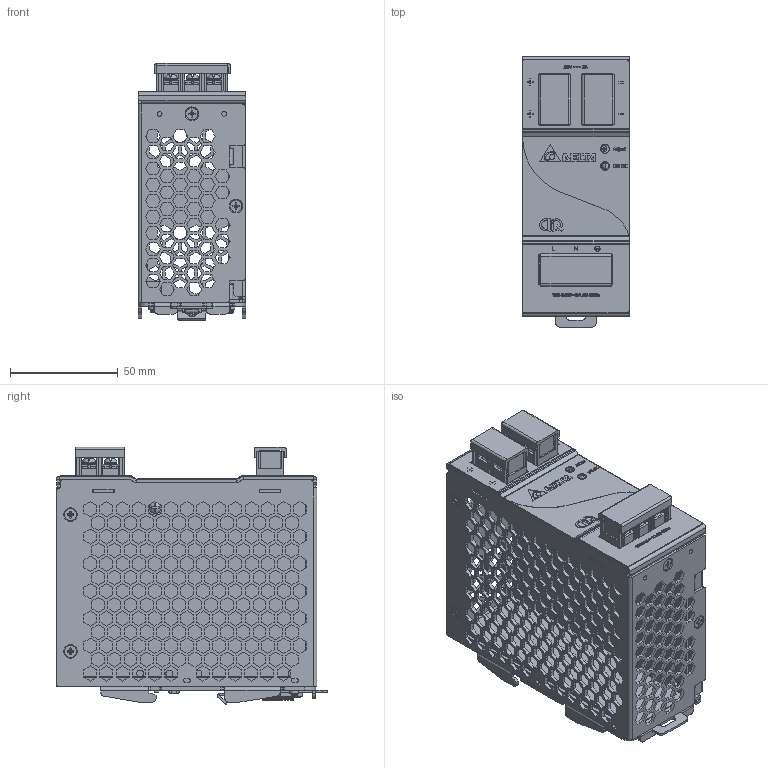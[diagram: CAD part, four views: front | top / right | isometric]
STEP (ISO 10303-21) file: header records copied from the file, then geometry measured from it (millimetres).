
FILE_DESCRIPTION((''),'2;1');
FILE_NAME('DRP024V120W1AA_ASM','2012-04-20T',('Manop.Pr'),(''),'PRO/ENGINEER BY PARAMETRIC TECHNOLOGY CORPORATION, 2010180','PRO/ENGINEER BY PARAMETRIC TECHNOLOGY CORPORATION, 2010180','');
FILE_SCHEMA(('CONFIG_CONTROL_DESIGN','SHAPE_APPEARANCE_LAYERS_GROUPS'));
Products named in the file (34): 330240391112; 330240391112_A_STUD; 330240391112_ASM; 330240380202; 330240360405; 326552550808; 3268190300; 3202315200; 324404500404; 324404500404_A_TAPE; 324404500404_ASM; 3461303000; 3460088100; 3462026200; ASSY_LATCH_50X100_ASM; 2958019105_PWB_MAIN; EE_VR550_0604101305; 2968051202_DCT-512; EE_LED350; 3073049746_A_BODY; 3073049746_A_TERMINAL; 3073049746_A_COVER; 3073049746_A_SCREW; 3073049746_ASM; 3073039846_A_BODY; 3073039846_A_TERMINAL; 3073039846_A_COVER; 3073039846_ASM; ASSY_DCT-512_ASM; ASSY_PWB_MAIN_ASM; 3100000400; 3100300600; 3100020600; DRP024V120W1AA_ASM
Assembly tree (51 placements, depth 5):
  DRP024V120W1AA_ASM
    330240391112_ASM
      330240391112
      330240391112_A_STUD  x2
    330240380202
    330240360405
    326552550808
    3268190300
    3202315200
    324404500404_ASM
      324404500404
      324404500404_A_TAPE  x2
    ASSY_LATCH_50X100_ASM
      3461303000
      3460088100
      3462026200
    ASSY_PWB_MAIN_ASM
      2958019105_PWB_MAIN
      EE_VR550_0604101305
      ASSY_DCT-512_ASM
        2968051202_DCT-512
        EE_LED350
        3073049746_ASM  x2
          3073049746_A_BODY
          3073049746_A_TERMINAL
          3073049746_A_COVER
          3073049746_A_SCREW
        3073039846_ASM
          3073039846_A_BODY
          3073039846_A_TERMINAL  x3
          3073039846_A_COVER
          3073049746_A_SCREW  x3
    3100000400  x5
    3100300600  x2
    3100020600  x4
Bounding box: 50.1 x 126 x 119.6 mm (x, y, z)
Volume: 104852.7 mm3; surface area: 195287.8 mm2
Topology: 55 solids, 55 shells, 6988 faces, 18983 edges, 12240 vertices
Faces by surface type: plane 5493, cylinder 713, extrusion 440, bspline 168, cone 136, torus 34, sphere 4
Entity records: 228967 total; most frequent: CARTESIAN_POINT 42867, ORIENTED_EDGE 30410, DIRECTION 25979, EDGE_CURVE 15205, PRESENTATION_STYLE_ASSIGNMENT 14636, STYLED_ITEM 14546, CURVE_STYLE 14520, VECTOR 13529
